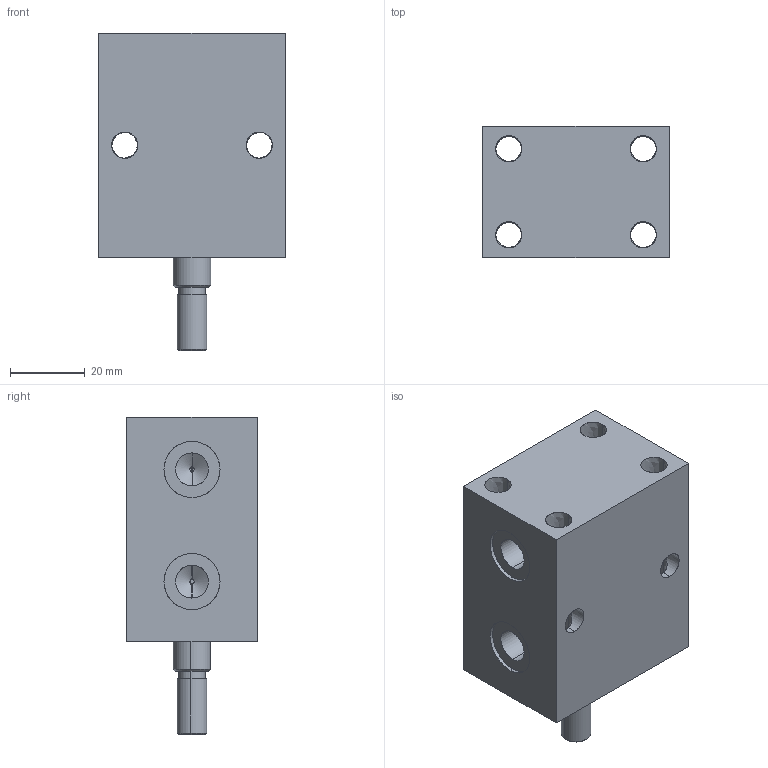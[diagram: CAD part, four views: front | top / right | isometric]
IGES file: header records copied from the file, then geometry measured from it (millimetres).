
Start section: SolidWorks IGES file using analytic representation for surfaces
Global section: file name: D:\karuppas\Clasp\3D model\Block cylinder B01C-Male thread - Copy\B01C-001M\Block cylinder B01C-001M.IGS; native system: SolidWorks 2017; preprocessor: SolidWorks 2017; author: pc; date: 220709.232258; units: millimetre
Bounding box: 50 x 35 x 85 mm (x, y, z)
Surface area: 24033.6 mm2 (no closed solid volume)
Topology: 0 solids, 0 shells, 351 faces, 5476 edges, 5476 vertices
Faces by surface type: bspline 297, revolution 54
